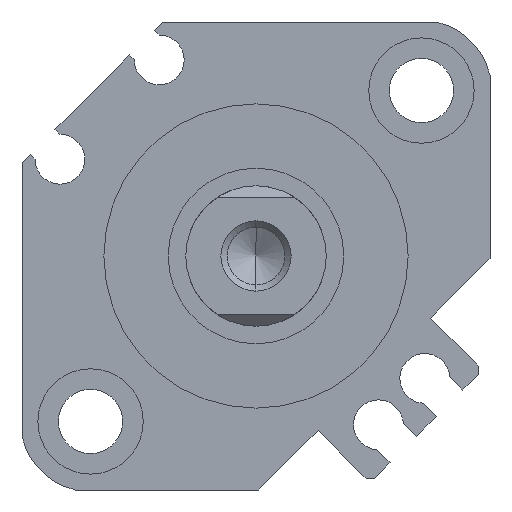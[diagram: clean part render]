
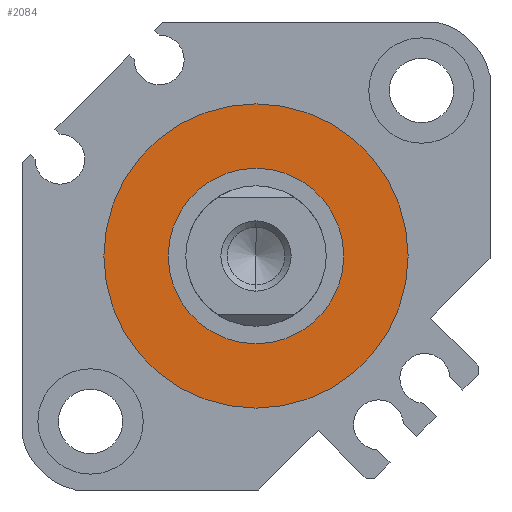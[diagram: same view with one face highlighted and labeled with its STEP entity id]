
A CAD part, left-side view. The second image highlights one B-rep face of the part: STEP entity #2084.
In plain terms, the highlighted planar face has unit normal (-1, 0, 0).
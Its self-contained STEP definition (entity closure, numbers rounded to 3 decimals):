
#13 = ORIENTED_EDGE ( 'NONE', *, *, #351, .F. ) ;
#71 = CIRCLE ( 'NONE', #1073, 13. ) ;
#269 = DIRECTION ( 'NONE',  ( 1., 0., 0. ) ) ;
#351 = EDGE_CURVE ( 'NONE', #2771, #631, #71, .T. ) ;
#486 = DIRECTION ( 'NONE',  ( 1., 0., 0. ) ) ;
#611 = EDGE_CURVE ( 'NONE', #2017, #2071, #2162, .T. ) ;
#631 = VERTEX_POINT ( 'NONE', #724 ) ;
#647 = EDGE_LOOP ( 'NONE', ( #2806, #3200 ) ) ;
#724 = CARTESIAN_POINT ( 'NONE',  ( 1.9, 0., -13. ) ) ;
#1050 = PLANE ( 'NONE',  #2987 ) ;
#1073 = AXIS2_PLACEMENT_3D ( 'NONE', #2733, #3263, #2968 ) ;
#1198 = CIRCLE ( 'NONE', #3243, 13. ) ;
#1262 = CARTESIAN_POINT ( 'NONE',  ( 1.9, 0., 0. ) ) ;
#1458 = ORIENTED_EDGE ( 'NONE', *, *, #1574, .F. ) ;
#1505 = DIRECTION ( 'NONE',  ( 0., 1., 0. ) ) ;
#1514 = CARTESIAN_POINT ( 'NONE',  ( 1.9, 0., 0. ) ) ;
#1574 = EDGE_CURVE ( 'NONE', #631, #2771, #1198, .T. ) ;
#1652 = EDGE_CURVE ( 'NONE', #2071, #2017, #2135, .T. ) ;
#1691 = EDGE_LOOP ( 'NONE', ( #13, #1458 ) ) ;
#1809 = DIRECTION ( 'NONE',  ( 0., 0., -1. ) ) ;
#1861 = CARTESIAN_POINT ( 'NONE',  ( 1.9, 0., 0. ) ) ;
#1885 = AXIS2_PLACEMENT_3D ( 'NONE', #1514, #2269, #3326 ) ;
#2017 = VERTEX_POINT ( 'NONE', #2627 ) ;
#2071 = VERTEX_POINT ( 'NONE', #3165 ) ;
#2084 = ADVANCED_FACE ( 'NONE', ( #2835, #2347 ), #1050, .F. ) ;
#2135 = CIRCLE ( 'NONE', #2962, 7.5 ) ;
#2162 = CIRCLE ( 'NONE', #1885, 7.5 ) ;
#2269 = DIRECTION ( 'NONE',  ( 1., 0., 0. ) ) ;
#2347 = FACE_BOUND ( 'NONE', #647, .T. ) ;
#2627 = CARTESIAN_POINT ( 'NONE',  ( 1.9, 0., 7.5 ) ) ;
#2733 = CARTESIAN_POINT ( 'NONE',  ( 1.9, 0., 0. ) ) ;
#2771 = VERTEX_POINT ( 'NONE', #2812 ) ;
#2806 = ORIENTED_EDGE ( 'NONE', *, *, #611, .T. ) ;
#2812 = CARTESIAN_POINT ( 'NONE',  ( 1.9, 0., 13. ) ) ;
#2835 = FACE_OUTER_BOUND ( 'NONE', #1691, .T. ) ;
#2860 = DIRECTION ( 'NONE',  ( 0., 0., -1. ) ) ;
#2894 = CARTESIAN_POINT ( 'NONE',  ( 1.9, 0., 0. ) ) ;
#2962 = AXIS2_PLACEMENT_3D ( 'NONE', #2894, #3118, #1809 ) ;
#2968 = DIRECTION ( 'NONE',  ( 0., 0., -1. ) ) ;
#2987 = AXIS2_PLACEMENT_3D ( 'NONE', #1262, #486, #1505 ) ;
#3118 = DIRECTION ( 'NONE',  ( 1., 0., 0. ) ) ;
#3165 = CARTESIAN_POINT ( 'NONE',  ( 1.9, 0., -7.5 ) ) ;
#3200 = ORIENTED_EDGE ( 'NONE', *, *, #1652, .T. ) ;
#3243 = AXIS2_PLACEMENT_3D ( 'NONE', #1861, #269, #2860 ) ;
#3263 = DIRECTION ( 'NONE',  ( 1., 0., 0. ) ) ;
#3326 = DIRECTION ( 'NONE',  ( 0., 0., -1. ) ) ;
